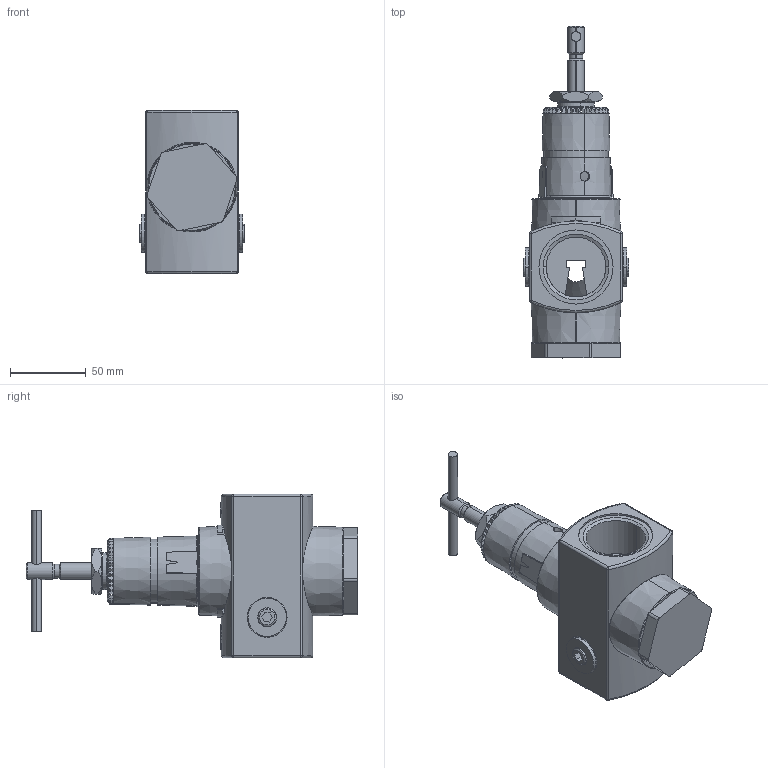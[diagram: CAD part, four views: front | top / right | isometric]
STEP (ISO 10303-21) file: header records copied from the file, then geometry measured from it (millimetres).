
FILE_DESCRIPTION(/* description */ (''),/* implementation_level */ '2;1');
FILE_NAME(/* name */ 'SR17-A01-RNCC.step',/* time_stamp */ '2024-02-14T13:25:16+01:00',/* author */ (''),/* organization */ (''),/* preprocessor_version */ 'ST-DEVELOPER v20',/* originating_system */ 'Autodesk Translation Framework v12.14.0.127',/* authorisation */ '');
FILE_SCHEMA (('AUTOMOTIVE_DESIGN { 1 0 10303 214 3 1 1 }'));
Products named in the file (2): (Nicht gespeichert); SR17-A01-RNCC
Assembly tree (1 placements, depth 2):
  (Nicht gespeichert)
    SR17-A01-RNCC
Bounding box: 70.05 x 219.44 x 107.95 mm (x, y, z)
Surface area: 71610.3 mm2 (no closed solid volume)
Topology: 0 solids, 488 shells, 488 faces, 2766 edges, 2758 vertices
Faces by surface type: plane 250, cylinder 104, cone 66, bspline 45, torus 15, sphere 8
Entity records: 46084 total; most frequent: CARTESIAN_POINT 25542, DIRECTION 3476, VERTEX_POINT 2758, EDGE_CURVE 2758, ORIENTED_EDGE 2758, LINE 1404, VECTOR 1404, AXIS2_PLACEMENT_3D 1036
